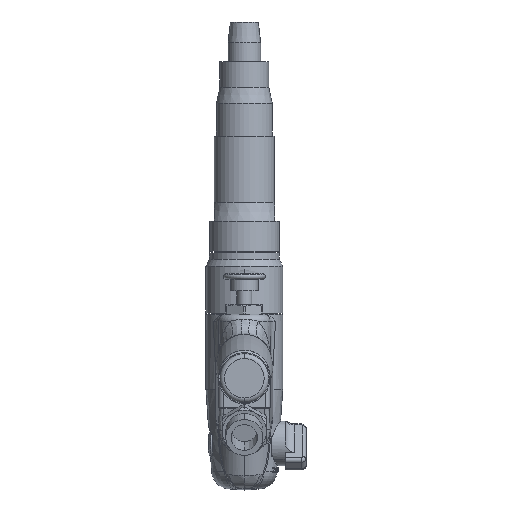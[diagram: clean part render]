
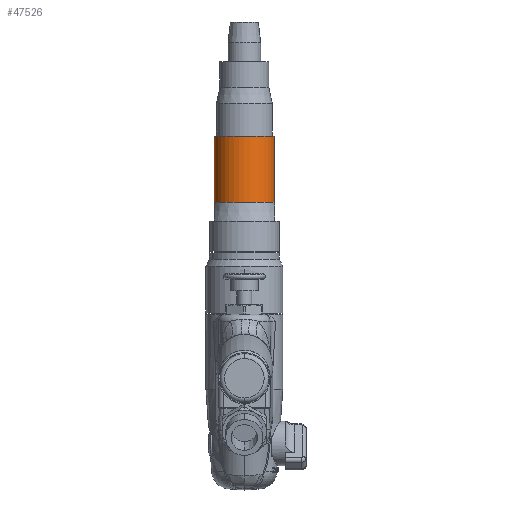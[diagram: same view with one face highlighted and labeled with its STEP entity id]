
A CAD part, front view. The second image highlights one B-rep face of the part: STEP entity #47526.
In plain terms, the highlighted cylindrical face has radius 13 mm (diameter 26 mm), a partial arc.
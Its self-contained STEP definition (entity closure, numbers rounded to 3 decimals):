
#47461 = VERTEX_POINT ( 'NONE', #50561 ) ;
#47463 = VERTEX_POINT ( 'NONE', #50560 ) ;
#47468 = EDGE_CURVE ( 'NONE', #47463, #47469, #50557, .T. ) ;
#47469 = VERTEX_POINT ( 'NONE', #50550 ) ;
#47474 = VERTEX_POINT ( 'NONE', #50538 ) ;
#47478 = EDGE_CURVE ( 'NONE', #47461, #47474, #50533, .T. ) ;
#47526 = ADVANCED_FACE ( 'NONE', ( #50693 ), #50692, .T. ) ;
#47529 = EDGE_LOOP ( 'NONE', ( #47530, #47531, #47532, #47533 ) ) ;
#47530 = ORIENTED_EDGE ( 'NONE', *, *, #47468, .F. ) ;
#47531 = ORIENTED_EDGE ( 'NONE', *, *, #47569, .T. ) ;
#47532 = ORIENTED_EDGE ( 'NONE', *, *, #47478, .T. ) ;
#47533 = ORIENTED_EDGE ( 'NONE', *, *, #47534, .F. ) ;
#47534 = EDGE_CURVE ( 'NONE', #47469, #47474, #50683, .T. ) ;
#47569 = EDGE_CURVE ( 'NONE', #47463, #47461, #50751, .T. ) ;
#50529 = DIRECTION ( 'NONE',  ( 0., 0., 1. ) ) ;
#50530 = VECTOR ( 'NONE', #50529, 1000. ) ;
#50532 = CARTESIAN_POINT ( 'NONE',  ( 13., 0., 7.729 ) ) ;
#50533 = LINE ( 'NONE', #50532, #50530 ) ;
#50538 = CARTESIAN_POINT ( 'NONE',  ( 13., 0., -12. ) ) ;
#50550 = CARTESIAN_POINT ( 'NONE',  ( -13., 0., -12. ) ) ;
#50552 = DIRECTION ( 'NONE',  ( 0., 0., 1. ) ) ;
#50553 = VECTOR ( 'NONE', #50552, 1000. ) ;
#50555 = CARTESIAN_POINT ( 'NONE',  ( -13., 0., 7.729 ) ) ;
#50557 = LINE ( 'NONE', #50555, #50553 ) ;
#50560 = CARTESIAN_POINT ( 'NONE',  ( -13., 0., -40.5 ) ) ;
#50561 = CARTESIAN_POINT ( 'NONE',  ( 13., 0., -40.5 ) ) ;
#50677 = DIRECTION ( 'NONE',  ( 1., 0., 0. ) ) ;
#50679 = DIRECTION ( 'NONE',  ( 0., 0., 1. ) ) ;
#50681 = AXIS2_PLACEMENT_3D ( 'NONE', #50690, #50679, #50677 ) ;
#50683 = CIRCLE ( 'NONE', #50681, 13. ) ;
#50686 = DIRECTION ( 'NONE',  ( 1., 0., 0. ) ) ;
#50687 = DIRECTION ( 'NONE',  ( 0., 0., 1. ) ) ;
#50688 = CARTESIAN_POINT ( 'NONE',  ( 0., 0., 7.729 ) ) ;
#50689 = AXIS2_PLACEMENT_3D ( 'NONE', #50688, #50687, #50686 ) ;
#50690 = CARTESIAN_POINT ( 'NONE',  ( 0., 0., -12. ) ) ;
#50692 = CYLINDRICAL_SURFACE ( 'NONE', #50689, 13. ) ;
#50693 = FACE_OUTER_BOUND ( 'NONE', #47529, .T. ) ;
#50736 = DIRECTION ( 'NONE',  ( 1., 0., 0. ) ) ;
#50737 = DIRECTION ( 'NONE',  ( 0., 0., 1. ) ) ;
#50738 = CARTESIAN_POINT ( 'NONE',  ( 0., 0., -40.5 ) ) ;
#50739 = AXIS2_PLACEMENT_3D ( 'NONE', #50738, #50737, #50736 ) ;
#50751 = CIRCLE ( 'NONE', #50739, 13. ) ;
